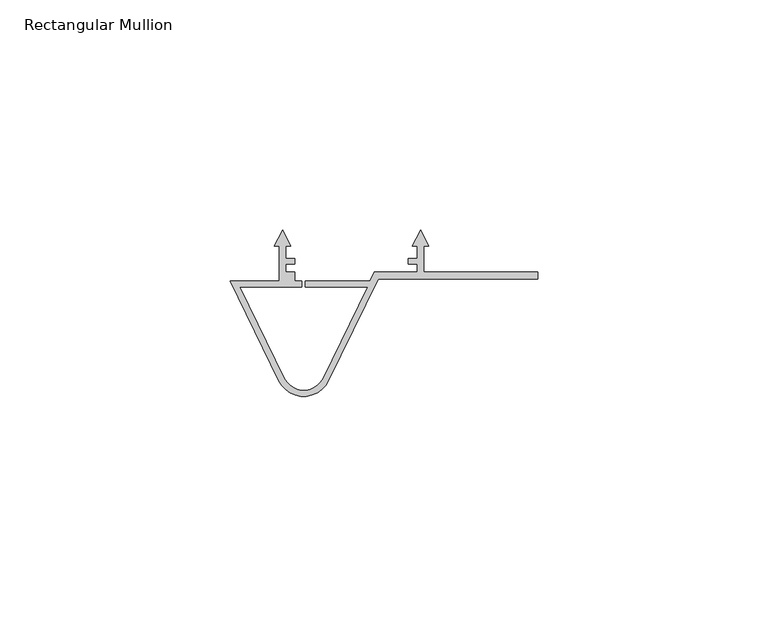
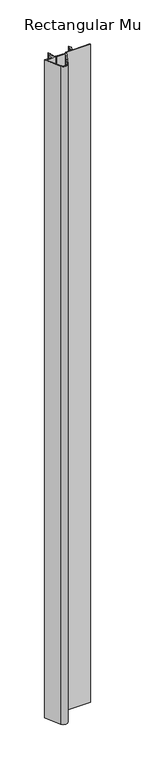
"""IFC4 building model written with IfcOpenShell, lengths in millimetres: member geometry, Rectangular Mullion : Renson_Linarte_LA-CO-01."""

from ifc_helpers import new_model, si_unit, point, frame, frame_2d, origin, place, context, project, spatial, polyline, circle_curve, trimmed, segment, composite_curve, outline, extrude, source, transform, mapped, element, save


def rectangular_mullion_cac204a1(model_context):
    return source(origin(), model_context, "Body", "SweptSolid", [
        extrude(outline(composite_curve([segment(polyline([(-25.5, -25.0), (-23.6842633, -28.5635875), (-24.7999991, -28.4659733), (-24.7999991, -34.2), (0.0, -34.2), (0.0, -35.6999997), (-34.7224659, -35.6999997), (-45.5160988, -57.8302268)]), True, "CONTINUOUS"), segment(trimmed(circle_curve(frame_2d((-50.9088631, -55.2)), 6.0), [point((-45.5160988, -57.8302268))], [point((-56.3016273, -57.8302269))], False, "CARTESIAN"), True, "CONTINUOUS"), segment(polyline([(-56.3016273, -57.8302269), (-66.9001673, -36.0999998), (-56.2000001, -36.0999998), (-56.2000001, -28.4659732), (-57.3157366, -28.5635874), (-55.5, -25.0), (-53.6842634, -28.5635874), (-54.7999999, -28.4659732), (-54.7999999, -31.1999999), (-52.8077358, -31.1999999), (-52.8077358, -32.3999999), (-54.7999999, -32.3999999), (-54.7999999, -34.1999999), (-52.8077358, -34.1999999), (-52.8077358, -36.0999998), (-51.2917058, -36.0999998), (-51.2917058, -37.3999998), (-64.8197324, -37.3999998), (-55.1331951, -57.2603444)]), True, "CONTINUOUS"), segment(trimmed(circle_curve(frame_2d((-50.9088631, -55.2)), 4.7), [point((-55.1331951, -57.2603444))], [point((-46.684531, -57.2603444))], True, "CARTESIAN"), True, "CONTINUOUS"), segment(polyline([(-46.684531, -57.2603444), (-36.9979937, -37.3999998), (-50.5260203, -37.3999998), (-50.5260203, -36.0999998), (-36.576219, -36.0999998), (-35.6081217, -34.2), (-26.1999993, -34.2), (-26.1999993, -32.4), (-28.192263, -32.4), (-28.192263, -31.2), (-26.1999989, -31.2), (-26.1999989, -28.465973), (-27.3157367, -28.5635874), (-25.5, -25.0)]), True, "CONTINUOUS")], self_intersect=False)), frame((0.0, 0.0, -1000.0), z_axis=(0.0, 0.0, 1.0), x_axis=(1.0, 0.0, 0.0)), (0.0, 0.0, 1.0), 1000.0),
    ])


if __name__ == "__main__":
    model = new_model("IFC4")
    model_context = context("Model", 3, world=origin())
    ifc_project = project(units=[si_unit("LENGTHUNIT", "METRE", prefix="MILLI")], contexts=[model_context])
    site = spatial("IfcSite", under=ifc_project)
    building = spatial("IfcBuilding", under=site)
    placement = place(None, origin())
    rectangular_mullion_shape = rectangular_mullion_cac204a1(model_context)
    element("IfcMember", 1, ObjectType="Rectangular Mullion : Renson_Linarte_LA-CO-01", at=placement, inside=building, context=model_context, shape_type="MappedRepresentation", body=[
        mapped(rectangular_mullion_shape, transform((0.0, 0.0, 0.0), x_axis=(1.0, 0.0, 0.0), y_axis=(0.0, 1.0, 0.0), z_axis=(0.0, 0.0, 1.0))),
    ])
    save(model, "model.ifc")
